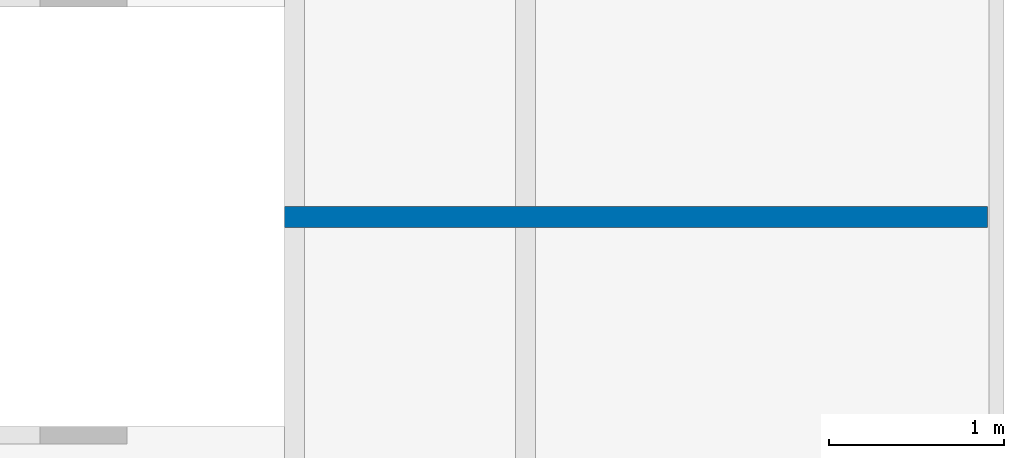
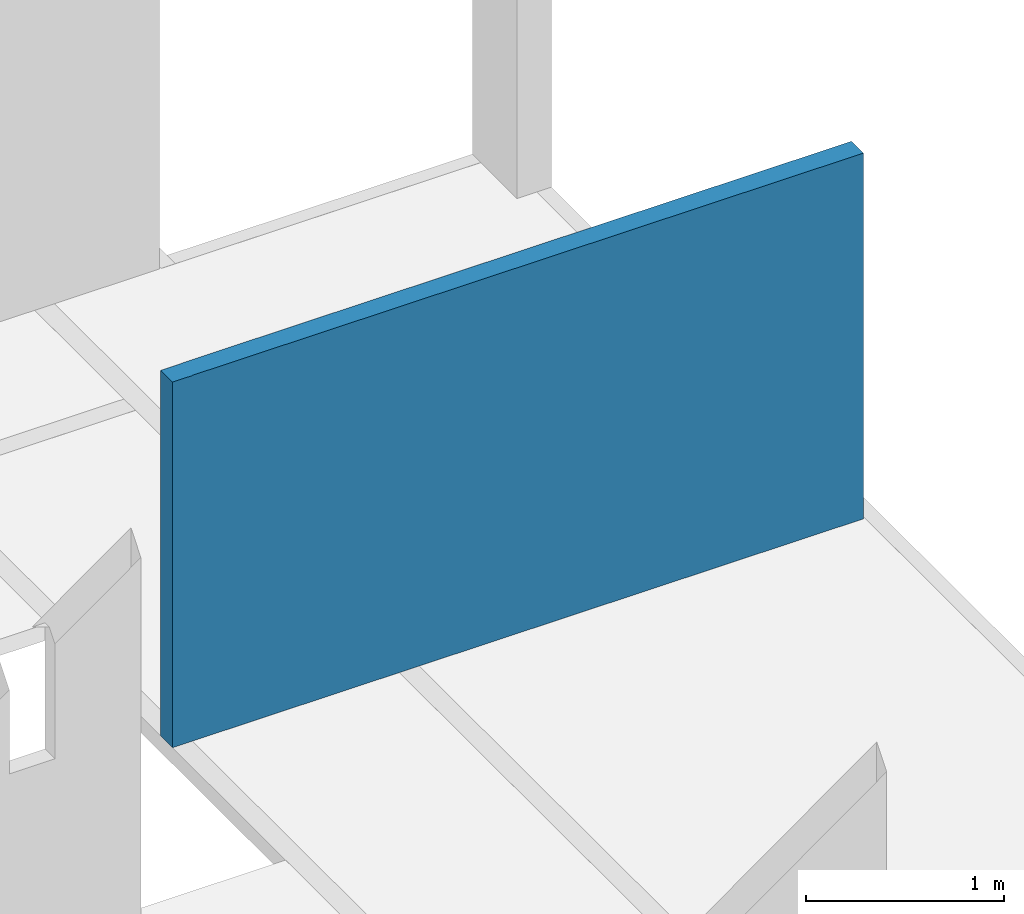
# One storey, part 5 of 5: 1 wall.
"""IFC4 building model written with IfcOpenShell, lengths in metres."""

from ifc_helpers import new_model, entity, si_unit, converted_unit, derived_unit, direction, frame, origin, place, context, subcontext, project, spatial, polygons, material, type_object, element, save


model = new_model("IFC4")

# Units and contexts
model_context = context("Model", 3, precision=1e-05, world=origin(), true_north=direction((6.123031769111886e-17, 1.0)))
body_context = subcontext(model_context, "Body", "Model", "MODEL_VIEW")
ifc_project = project(units=[si_unit("LENGTHUNIT", "METRE"), si_unit("AREAUNIT", "SQUARE_METRE"), si_unit("VOLUMEUNIT", "CUBIC_METRE"), converted_unit("PLANEANGLEUNIT", "DEGREE", entity("IfcRatioMeasure", 0.017453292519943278), si_unit("PLANEANGLEUNIT", "RADIAN"), dimensions=[0, 0, 0, 0, 0, 0, 0]), si_unit("MASSUNIT", "GRAM", prefix="KILO"), derived_unit("MASSDENSITYUNIT", [(si_unit("MASSUNIT", "GRAM", prefix="KILO"), 1), (si_unit("LENGTHUNIT", "METRE"), -3)]), derived_unit("IONCONCENTRATIONUNIT", [(si_unit("MASSUNIT", "GRAM", prefix="KILO"), 1), (si_unit("LENGTHUNIT", "METRE"), -3)]), derived_unit("MOMENTOFINERTIAUNIT", [(si_unit("LENGTHUNIT", "METRE"), 4)]), si_unit("TIMEUNIT", "SECOND"), si_unit("FREQUENCYUNIT", "HERTZ"), si_unit("THERMODYNAMICTEMPERATUREUNIT", "DEGREE_CELSIUS"), derived_unit("THERMALTRANSMITTANCEUNIT", [(si_unit("MASSUNIT", "GRAM", prefix="KILO"), 1), (si_unit("THERMODYNAMICTEMPERATUREUNIT", "KELVIN"), -1), (si_unit("TIMEUNIT", "SECOND"), -3)]), derived_unit("THERMALCONDUCTANCEUNIT", [(si_unit("MASSUNIT", "GRAM", prefix="KILO"), 1), (si_unit("THERMODYNAMICTEMPERATUREUNIT", "KELVIN"), -1), (si_unit("TIMEUNIT", "SECOND"), -3), (si_unit("LENGTHUNIT", "METRE"), 1)]), derived_unit("VOLUMETRICFLOWRATEUNIT", [(si_unit("LENGTHUNIT", "METRE"), 3), (si_unit("TIMEUNIT", "SECOND"), -1)]), derived_unit("MASSFLOWRATEUNIT", [(si_unit("MASSUNIT", "GRAM", prefix="KILO"), 1), (si_unit("TIMEUNIT", "SECOND"), -1)]), derived_unit("ROTATIONALFREQUENCYUNIT", [(si_unit("TIMEUNIT", "SECOND"), -1)]), si_unit("ELECTRICCURRENTUNIT", "AMPERE"), si_unit("ELECTRICVOLTAGEUNIT", "VOLT"), si_unit("POWERUNIT", "WATT"), si_unit("FORCEUNIT", "NEWTON", prefix="KILO"), si_unit("ILLUMINANCEUNIT", "LUX"), si_unit("LUMINOUSFLUXUNIT", "LUMEN"), si_unit("LUMINOUSINTENSITYUNIT", "CANDELA"), derived_unit("USERDEFINED", [(si_unit("MASSUNIT", "GRAM", prefix="KILO"), -1), (si_unit("LENGTHUNIT", "METRE"), -2), (si_unit("TIMEUNIT", "SECOND"), 3), (si_unit("LUMINOUSFLUXUNIT", "LUMEN"), 1)]), derived_unit("USERDEFINED", [(si_unit("MASSUNIT", "GRAM", prefix="KILO"), 1), (si_unit("TIMEUNIT", "SECOND"), -3), (si_unit("LENGTHUNIT", "METRE"), 3), (si_unit("ELECTRICCURRENTUNIT", "AMPERE"), -2)]), derived_unit("SOUNDPOWERUNIT", [(si_unit("MASSUNIT", "GRAM", prefix="KILO"), 1), (si_unit("TIMEUNIT", "SECOND"), -3), (si_unit("LENGTHUNIT", "METRE"), 2)]), derived_unit("SOUNDPRESSUREUNIT", [(si_unit("MASSUNIT", "GRAM", prefix="KILO"), 1), (si_unit("LENGTHUNIT", "METRE"), -1), (si_unit("TIMEUNIT", "SECOND"), -2)]), derived_unit("LINEARVELOCITYUNIT", [(si_unit("LENGTHUNIT", "METRE"), 1), (si_unit("TIMEUNIT", "SECOND"), -1)]), si_unit("PRESSUREUNIT", "PASCAL"), derived_unit("USERDEFINED", [(si_unit("MASSUNIT", "GRAM", prefix="KILO"), 1), (si_unit("LENGTHUNIT", "METRE"), -2), (si_unit("TIMEUNIT", "SECOND"), -2)]), derived_unit("LINEARFORCEUNIT", [(si_unit("MASSUNIT", "GRAM", prefix="KILO"), 1), (si_unit("TIMEUNIT", "SECOND"), -2)]), derived_unit("PLANARFORCEUNIT", [(si_unit("MASSUNIT", "GRAM", prefix="KILO"), 1), (si_unit("LENGTHUNIT", "METRE"), -1), (si_unit("TIMEUNIT", "SECOND"), -2)]), derived_unit("SPECIFICHEATCAPACITYUNIT", [(si_unit("THERMODYNAMICTEMPERATUREUNIT", "KELVIN"), -1), (si_unit("LENGTHUNIT", "METRE"), 2), (si_unit("TIMEUNIT", "SECOND"), -2)]), derived_unit("HEATINGVALUEUNIT", [(si_unit("LENGTHUNIT", "METRE"), 2), (si_unit("TIMEUNIT", "SECOND"), -2)]), derived_unit("VAPORPERMEABILITYUNIT", [(si_unit("LENGTHUNIT", "METRE"), -1), (si_unit("TIMEUNIT", "SECOND"), 1)]), derived_unit("DYNAMICVISCOSITYUNIT", [(si_unit("MASSUNIT", "GRAM", prefix="KILO"), 1), (si_unit("TIMEUNIT", "SECOND"), -1), (si_unit("LENGTHUNIT", "METRE"), -1)]), derived_unit("THERMALEXPANSIONCOEFFICIENTUNIT", [(si_unit("THERMODYNAMICTEMPERATUREUNIT", "KELVIN"), -1)]), derived_unit("MODULUSOFELASTICITYUNIT", [(si_unit("MASSUNIT", "GRAM", prefix="KILO"), 1), (si_unit("LENGTHUNIT", "METRE"), -1), (si_unit("TIMEUNIT", "SECOND"), -2)]), derived_unit("ISOTHERMALMOISTURECAPACITYUNIT", [(si_unit("LENGTHUNIT", "METRE"), 3), (si_unit("MASSUNIT", "GRAM", prefix="KILO"), -1)]), derived_unit("MOISTUREDIFFUSIVITYUNIT", [(si_unit("TIMEUNIT", "SECOND"), -1), (si_unit("LENGTHUNIT", "METRE"), 2)])], contexts=[model_context])

# Site, building, storey
site_placement = place(None, origin())
site = spatial("IfcSite", under=ifc_project, at=site_placement, Name="Default", CompositionType="ELEMENT")
building_placement = place(site_placement, origin())
building = spatial("IfcBuilding", under=site, at=building_placement, Name="Las nubes", CompositionType="ELEMENT")
storey_placement = place(building_placement, frame((0.0, 0.0, 11.750000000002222)))
storey = spatial("IfcBuildingStorey", under=building, at=storey_placement, Name="PISO 6", CompositionType="ELEMENT", Elevation=11.750000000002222)

# Wall
ifc_material = material(Name="Concrete - Cast-in-Place Concrete - 35 MPa", Category="Materials")
wall_type = type_object("IfcWallType", Name="Basic Wall:MURO 12cm", PredefinedType="STANDARD")
wall_placement = place(storey_placement, frame((18.577500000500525, -6.425000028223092, 0.0), z_axis=(0.0, 0.0, 1.0), x_axis=(-1.0, 0.0, 0.0)))
element("IfcWall", 1, at=wall_placement, inside=storey, type_object=wall_type, material=ifc_material, Name="Basic Wall:MURO 12cm", ObjectType="Basic Wall:MURO 12cm", PredefinedType="NOTDEFINED", context=body_context, shape_type="Tessellation", body=[
    polygons([(4.624065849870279e-16, -0.05999999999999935, 2.1657342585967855e-15), (4.019999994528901, -0.05999999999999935, 2.1657342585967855e-15), (4.019999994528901, -0.05999999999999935, 2.248700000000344), (3.9049999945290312, -0.05999999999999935, 2.248700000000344), (3.9049999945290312, -0.05999999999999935, 2.250000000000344), (4.624065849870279e-16, -0.05999999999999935, 2.250000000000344), (4.019999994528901, 0.060000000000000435, 2.1657342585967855e-15), (8.386016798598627e-16, 0.060000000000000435, 2.1657342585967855e-15), (8.386016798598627e-16, 0.060000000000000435, 2.250000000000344), (3.9049999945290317, 0.060000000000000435, 2.250000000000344), (3.9049999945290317, 0.060000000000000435, 2.248700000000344), (4.019999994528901, 0.060000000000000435, 2.248700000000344)], [[[1, 2, 3, 4, 5, 6]], [[7, 8, 9, 10, 11, 12]], [[2, 1, 8, 7]], [[2, 7, 12, 3]], [[8, 1, 6, 9]], [[9, 6, 5, 10]], [[4, 11, 10, 5]], [[11, 4, 3, 12]]], closed=True),
])

save(model, "model.ifc")
